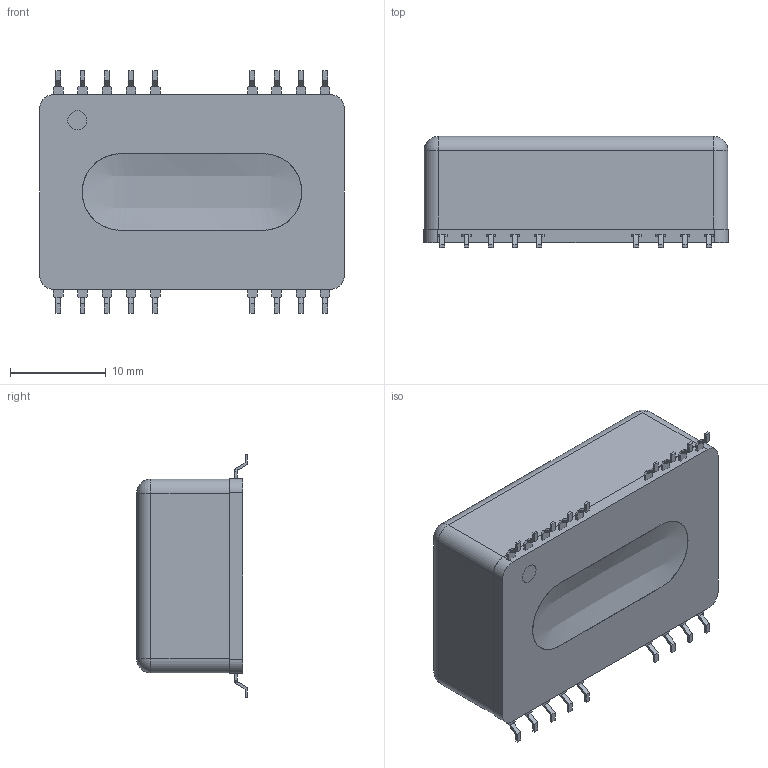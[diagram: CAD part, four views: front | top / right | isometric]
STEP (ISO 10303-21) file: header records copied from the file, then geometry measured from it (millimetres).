
FILE_DESCRIPTION (( 'STEP AP214' ), '1' );
FILE_NAME ('EC3AW (SMD).STEP', '2018-01-03T06:09:42', ( 'cincon' ), ( '' ), 'SwSTEP 2.0', 'SolidWorks 2008', '' );
FILE_SCHEMA (( 'AUTOMOTIVE_DESIGN' ));
Length unit declared in the file: millimetre
Products named in the file (4): DV32BE (SMD) MS-1060104; DV32BE (SMD) MS-IN-1060104; DV32BE (SMD) CASE A-1060104; EC3AW (SMD)
Assembly tree (3 placements, depth 2):
  EC3AW (SMD)
    DV32BE (SMD) MS-1060104
    DV32BE (SMD) MS-IN-1060104
    DV32BE (SMD) CASE A-1060104
Bounding box: 31.9 x 11.6 x 25.4 mm (x, y, z)
Volume: 7505.9 mm3; surface area: 8120.2 mm2
Topology: 22 solids, 22 shells, 502 faces, 1318 edges, 854 vertices
Faces by surface type: plane 449, cylinder 40, sphere 12, bspline 1
Entity records: 15912 total; most frequent: CARTESIAN_POINT 3305, ORIENTED_EDGE 2612, DIRECTION 2366, EDGE_CURVE 1306, VECTOR 1184, LINE 1184, VERTEX_POINT 854, AXIS2_PLACEMENT_3D 591
